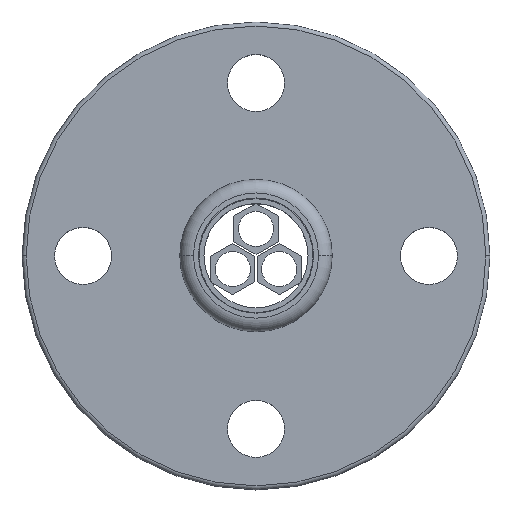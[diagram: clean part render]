
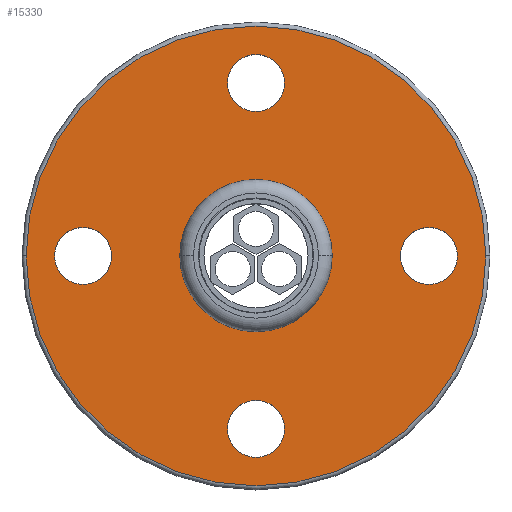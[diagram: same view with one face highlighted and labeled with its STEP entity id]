
A CAD part, top view. The second image highlights one B-rep face of the part: STEP entity #15330.
In plain terms, the highlighted planar face has unit normal (0, 0, 1) as drawn and (0, 1, 0) by its records, which use the part's own axes.
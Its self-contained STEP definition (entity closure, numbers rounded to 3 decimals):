
#14100=CARTESIAN_POINT('',(-390.306,10.673,
0.));
#14110=VERTEX_POINT('',#14100);
#14190=CARTESIAN_POINT('',(-418.306,10.673,0.));
#14200=VERTEX_POINT('',#14190);
#14230=CARTESIAN_POINT('',(-404.306,10.673,0.));
#14240=DIRECTION('',(0.,1.,0.));
#14250=DIRECTION('',(1.,0.,0.));
#14260=AXIS2_PLACEMENT_3D('',#14230,#14240,#14250);
#14270=CIRCLE('',#14260,14.);
#14280=EDGE_CURVE('',#14110,#14200,#14270,.T.);
#14380=EDGE_CURVE('',#14200,#14110,#14270,.T.);
#14490=CARTESIAN_POINT('',(-453.4,10.673,54.014)
);
#14500=DIRECTION('',(-0.,1.,0.));
#14510=DIRECTION('',(1.,0.,0.));
#14520=AXIS2_PLACEMENT_3D('',#14490,#14500,#14510);
#14530=PLANE('',#14520);
#14540=CARTESIAN_POINT('',(-446.806,10.673,0.));
#14550=DIRECTION('',(0.,1.,0.));
#14560=DIRECTION('',(0.,0.,-1.));
#14570=AXIS2_PLACEMENT_3D('',#14540,#14550,#14560);
#14580=CIRCLE('',#14570,7.);
#14590=CARTESIAN_POINT('',(-446.806,10.673,-7.));
#14600=VERTEX_POINT('',#14590);
#14610=CARTESIAN_POINT('',(-446.806,10.673,7.));
#14620=VERTEX_POINT('',#14610);
#14630=EDGE_CURVE('',#14600,#14620,#14580,.T.);
#14640=ORIENTED_EDGE('',*,*,#14630,.F.);
#14650=EDGE_CURVE('',#14620,#14600,#14580,.T.);
#14660=ORIENTED_EDGE('',*,*,#14650,.F.);
#14670=EDGE_LOOP('',(#14660,#14640));
#14680=FACE_BOUND('',#14670,.T.);
#14690=ORIENTED_EDGE('',*,*,#14280,.F.);
#14700=ORIENTED_EDGE('',*,*,#14380,.F.);
#14710=EDGE_LOOP('',(#14700,#14690));
#14720=FACE_BOUND('',#14710,.T.);
#14730=CARTESIAN_POINT('',(-404.306,10.673,42.5));
#14740=DIRECTION('',(0.,1.,0.));
#14750=DIRECTION('',(-1.,0.,0.));
#14760=AXIS2_PLACEMENT_3D('',#14730,#14740,#14750);
#14770=CIRCLE('',#14760,7.);
#14780=CARTESIAN_POINT('',(-411.306,10.673,42.5));
#14790=VERTEX_POINT('',#14780);
#14800=CARTESIAN_POINT('',(-397.306,10.673,42.5));
#14810=VERTEX_POINT('',#14800);
#14820=EDGE_CURVE('',#14790,#14810,#14770,.T.);
#14830=ORIENTED_EDGE('',*,*,#14820,.F.);
#14840=EDGE_CURVE('',#14810,#14790,#14770,.T.);
#14850=ORIENTED_EDGE('',*,*,#14840,.F.);
#14860=EDGE_LOOP('',(#14850,#14830));
#14870=FACE_BOUND('',#14860,.T.);
#14880=CARTESIAN_POINT('',(-361.806,10.673,0.));
#14890=DIRECTION('',(0.,1.,0.));
#14900=DIRECTION('',(0.,0.,1.));
#14910=AXIS2_PLACEMENT_3D('',#14880,#14890,#14900);
#14920=CIRCLE('',#14910,7.);
#14930=CARTESIAN_POINT('',(-361.806,10.673,7.));
#14940=VERTEX_POINT('',#14930);
#14950=CARTESIAN_POINT('',(-361.806,10.673,-7.));
#14960=VERTEX_POINT('',#14950);
#14970=EDGE_CURVE('',#14940,#14960,#14920,.T.);
#14980=ORIENTED_EDGE('',*,*,#14970,.F.);
#14990=EDGE_CURVE('',#14960,#14940,#14920,.T.);
#15000=ORIENTED_EDGE('',*,*,#14990,.F.);
#15010=EDGE_LOOP('',(#15000,#14980));
#15020=FACE_BOUND('',#15010,.T.);
#15030=CARTESIAN_POINT('',(-404.306,10.673,-42.5));
#15040=DIRECTION('',(0.,1.,0.));
#15050=DIRECTION('',(1.,0.,0.));
#15060=AXIS2_PLACEMENT_3D('',#15030,#15040,#15050);
#15070=CIRCLE('',#15060,7.);
#15080=CARTESIAN_POINT('',(-397.306,10.673,-42.5));
#15090=VERTEX_POINT('',#15080);
#15100=CARTESIAN_POINT('',(-411.306,10.673,-42.5));
#15110=VERTEX_POINT('',#15100);
#15120=EDGE_CURVE('',#15090,#15110,#15070,.T.);
#15130=ORIENTED_EDGE('',*,*,#15120,.F.);
#15140=EDGE_CURVE('',#15110,#15090,#15070,.T.);
#15150=ORIENTED_EDGE('',*,*,#15140,.F.);
#15160=EDGE_LOOP('',(#15150,#15130));
#15170=FACE_BOUND('',#15160,.T.);
#15180=CARTESIAN_POINT('',(-404.306,10.673,0.));
#15190=DIRECTION('',(0.,1.,0.));
#15200=DIRECTION('',(1.,0.,0.));
#15210=AXIS2_PLACEMENT_3D('',#15180,#15190,#15200);
#15220=CIRCLE('',#15210,56.5);
#15230=CARTESIAN_POINT('',(-347.806,10.673,0.));
#15240=VERTEX_POINT('',#15230);
#15250=CARTESIAN_POINT('',(-460.806,10.673,0.));
#15260=VERTEX_POINT('',#15250);
#15270=EDGE_CURVE('',#15240,#15260,#15220,.T.);
#15280=ORIENTED_EDGE('',*,*,#15270,.T.);
#15290=EDGE_CURVE('',#15260,#15240,#15220,.T.);
#15300=ORIENTED_EDGE('',*,*,#15290,.T.);
#15310=EDGE_LOOP('',(#15300,#15280));
#15320=FACE_OUTER_BOUND('',#15310,.T.);
#15330=ADVANCED_FACE('',(#14680,#14720,#14870,#15020,#15170,#15320),
#14530,.T.);
